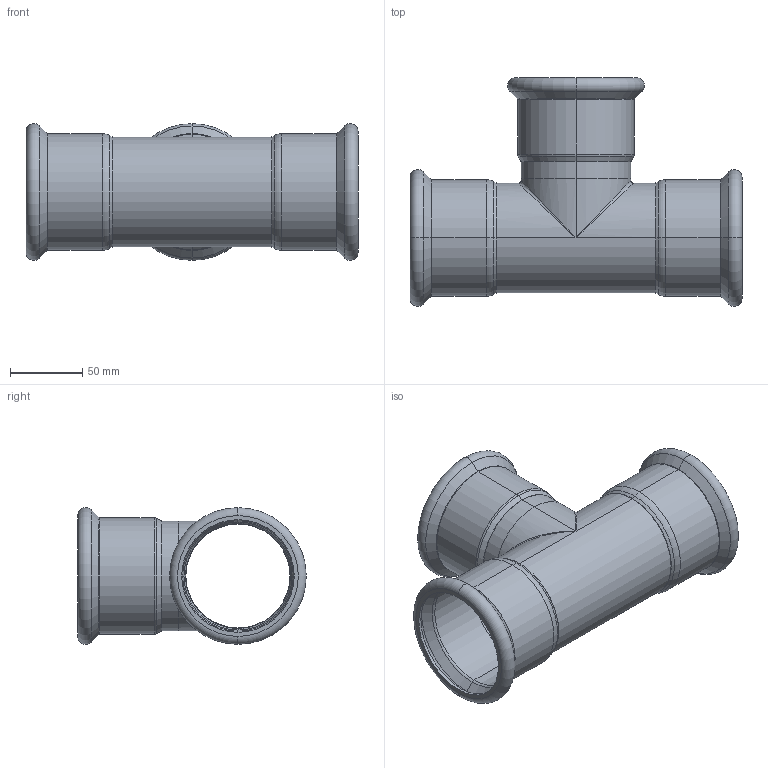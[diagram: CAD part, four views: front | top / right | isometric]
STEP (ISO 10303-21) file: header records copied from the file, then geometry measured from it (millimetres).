
FILE_DESCRIPTION (( 'STEP AP203' ), '1' );
FILE_NAME ('GDA5188.STEP', '2019-01-21T09:32:32', ( '' ), ( '' ), 'SwSTEP 2.0', 'SolidWorks 2015', '' );
FILE_SCHEMA (( 'CONFIG_CONTROL_DESIGN' ));
Length unit declared in the file: millimetre
Products named in the file (3): T-ｉ-01-76.1; T(R)-¢ñ-76.1¡Á54''; GDA5188
Assembly tree (2 placements, depth 2):
  GDA5188
    T(R)-¢ñ-76.1¡Á54''
    T-ｉ-01-76.1
Bounding box: 230 x 158.34 x 94.68 mm (x, y, z)
Volume: 156190.1 mm3; surface area: 158446.4 mm2
Topology: 2 solids, 2 shells, 116 faces, 238 edges, 120 vertices
Faces by surface type: torus 48, cylinder 32, cone 24, plane 8, bspline 4
Entity records: 3663 total; most frequent: CARTESIAN_POINT 899, DIRECTION 620, ORIENTED_EDGE 460, AXIS2_PLACEMENT_3D 281, EDGE_CURVE 230, CIRCLE 164, EDGE_LOOP 124, VERTEX_POINT 120
